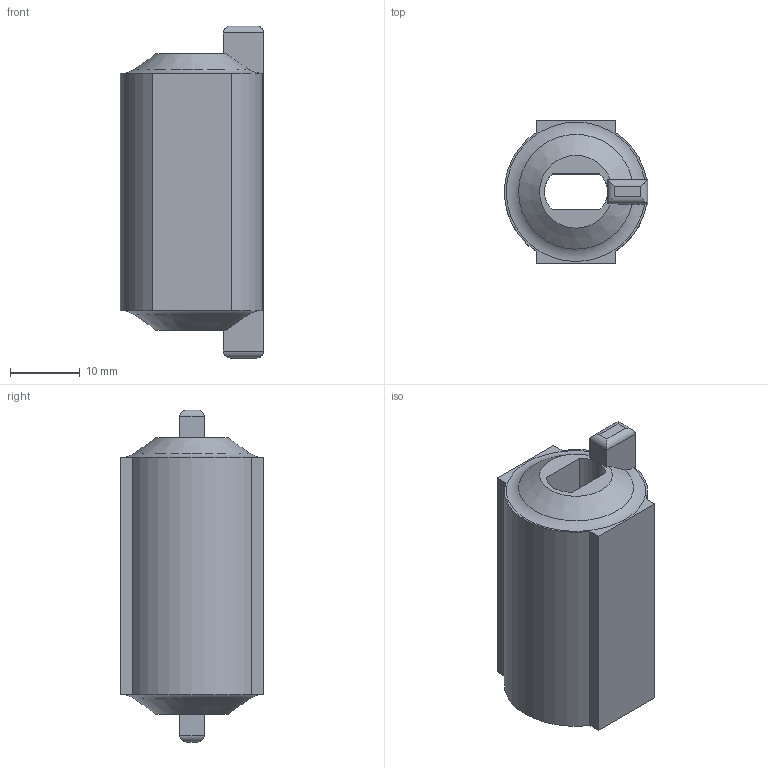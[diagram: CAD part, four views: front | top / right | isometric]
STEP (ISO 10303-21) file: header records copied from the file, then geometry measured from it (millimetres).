
FILE_DESCRIPTION (( 'STEP AP214' ), '1' );
FILE_NAME ('EC_ESDSRH_D29L47.5D20.5H20.5A39.5.STEP', '2018-09-18T21:46:59', ( '' ), ( '' ), 'SwSTEP 2.0', 'SolidWorks 2014', '' );
FILE_SCHEMA (( 'AUTOMOTIVE_DESIGN' ));
Length unit declared in the file: millimetre
Products named in the file (1): EC_ESDSRH_D29L47.5D20.5H20.5A39.5
Bounding box: 20.5 x 20.5 x 47.5 mm (x, y, z)
Volume: 11096.4 mm3; surface area: 4231.4 mm2
Topology: 1 solids, 1 shells, 91 faces, 252 edges, 164 vertices
Faces by surface type: plane 73, cylinder 14, cone 2, torus 2
Entity records: 3317 total; most frequent: CARTESIAN_POINT 572, ORIENTED_EDGE 504, DIRECTION 438, EDGE_CURVE 252, VECTOR 218, LINE 218, VERTEX_POINT 164, AXIS2_PLACEMENT_3D 110
